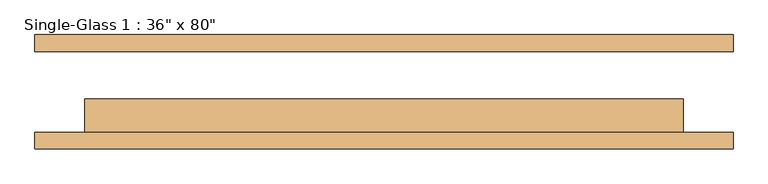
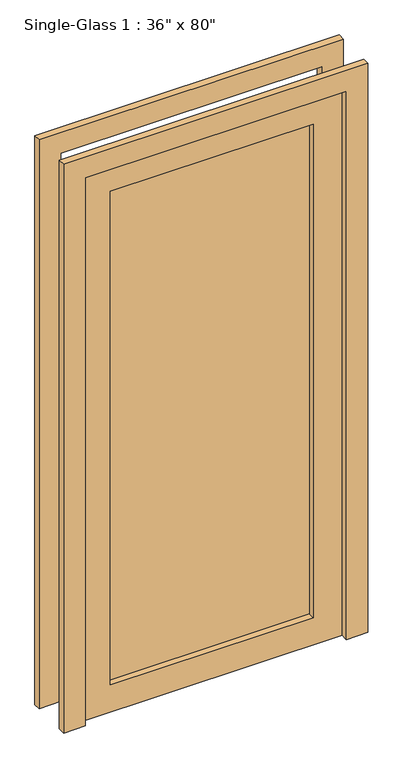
"""IFC4 building model written with IfcOpenShell, lengths in millimetres: door geometry."""

from ifc_helpers import new_model, si_unit, frame, origin, place, context, project, spatial, polyline, outline, extrude, source, transform, mapped, element, save


def door_8812bb35(model_context):
    return source(origin(), model_context, "Body", "SweptSolid", [
        extrude(outline(polyline([(2032.0, 457.2), (0.0, 457.2), (0.0, 533.4), (2108.2, 533.4), (2108.2, -533.4), (0.0, -533.4), (0.0, -457.2), (2032.0, -457.2), (2032.0, 457.2)])), frame((0.0, 61.9125, 0.0), z_axis=(0.0, 1.0, 0.0), x_axis=(0.0, 0.0, 1.0)), (0.0, 0.0, 1.0), 25.4),
        extrude(outline(polyline([(2032.0, 457.2), (0.0, 457.2), (0.0, 533.4), (2108.2, 533.4), (2108.2, -533.4), (0.0, -533.4), (0.0, -457.2), (2032.0, -457.2), (2032.0, 457.2)])), frame((0.0, -87.3125, 0.0), z_axis=(0.0, 1.0, 0.0), x_axis=(0.0, 0.0, 1.0)), (0.0, 0.0, 1.0), 25.4),
        extrude(outline(polyline([(355.6, -33.3375), (355.6, -39.6875), (-355.6, -39.6875), (-355.6, -33.3375), (355.6, -33.3375)])), frame((0.0, 0.0, 101.6), z_axis=(0.0, 0.0, 1.0), x_axis=(1.0, 0.0, 0.0)), (0.0, 0.0, 1.0), 1828.8),
        extrude(outline(polyline([(2032.0, 457.2), (2032.0, -457.2), (0.0, -457.2), (0.0, 457.2), (2032.0, 457.2)]), holes=[polyline([(1930.4, -355.6), (1930.4, 355.6), (101.6, 355.6), (101.6, -355.6), (1930.4, -355.6)])]), frame((0.0, -61.9125, 0.0), z_axis=(0.0, 1.0, 0.0), x_axis=(0.0, 0.0, 1.0)), (0.0, 0.0, 1.0), 50.8),
    ])


if __name__ == "__main__":
    model = new_model("IFC4")
    model_context = context("Model", 3, world=origin())
    ifc_project = project(units=[si_unit("LENGTHUNIT", "METRE", prefix="MILLI")], contexts=[model_context])
    site = spatial("IfcSite", under=ifc_project)
    building = spatial("IfcBuilding", under=site)
    placement = place(None, origin())
    door_shape = door_8812bb35(model_context)
    element("IfcDoor", 1, ObjectType="Single-Glass 1 : 36\" x 80\"", at=placement, inside=building, context=model_context, shape_type="MappedRepresentation", body=[
        mapped(door_shape, transform((0.0, 0.0, 0.0), x_axis=(1.0, 0.0, 0.0), y_axis=(0.0, 1.0, 0.0), z_axis=(0.0, 0.0, 1.0))),
    ])
    save(model, "model.ifc")
